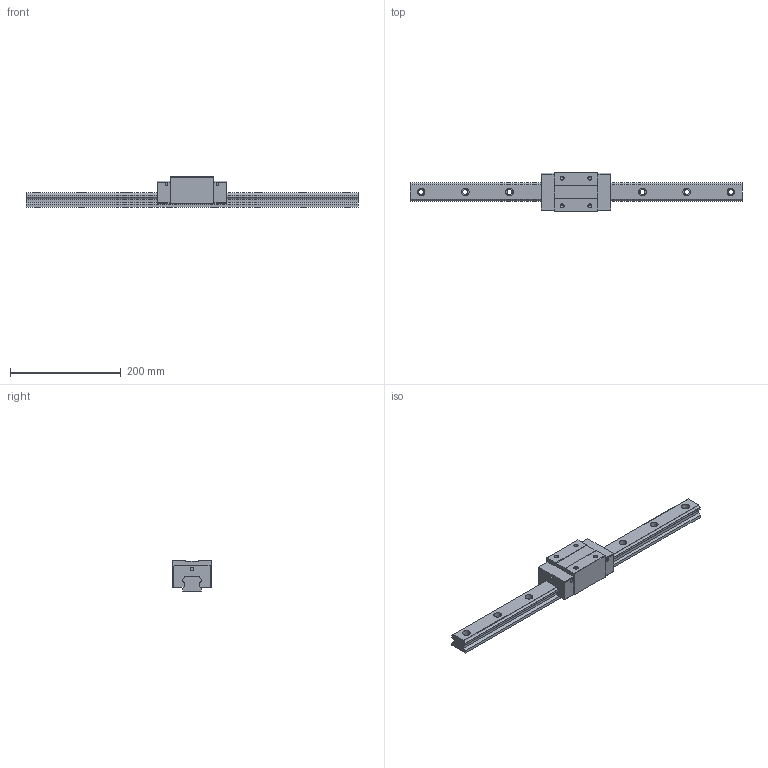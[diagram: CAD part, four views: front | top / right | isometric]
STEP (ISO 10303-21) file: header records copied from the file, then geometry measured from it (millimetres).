
FILE_DESCRIPTION (( 'STEP AP203' ), '1' );
FILE_NAME ('TRH35VN-DU.STEP', '2024-07-10T07:26:43', ( '' ), ( '' ), 'SwSTEP 2.0', 'SolidWorks 2022', '' );
FILE_SCHEMA (( 'CONFIG_CONTROL_DESIGN' ));
Length unit declared in the file: millimetre
Products named in the file (1): TRH35VN-DU
Bounding box: 600 x 70 x 55 mm (x, y, z)
Volume: 763777.5 mm3; surface area: 123419.8 mm2
Topology: 2 solids, 2 shells, 186 faces, 488 edges, 316 vertices
Faces by surface type: cylinder 88, plane 82, cone 16
Entity records: 5819 total; most frequent: DIRECTION 1038, CARTESIAN_POINT 983, ORIENTED_EDGE 960, EDGE_CURVE 480, AXIS2_PLACEMENT_3D 371, VERTEX_POINT 316, LINE 296, VECTOR 296
